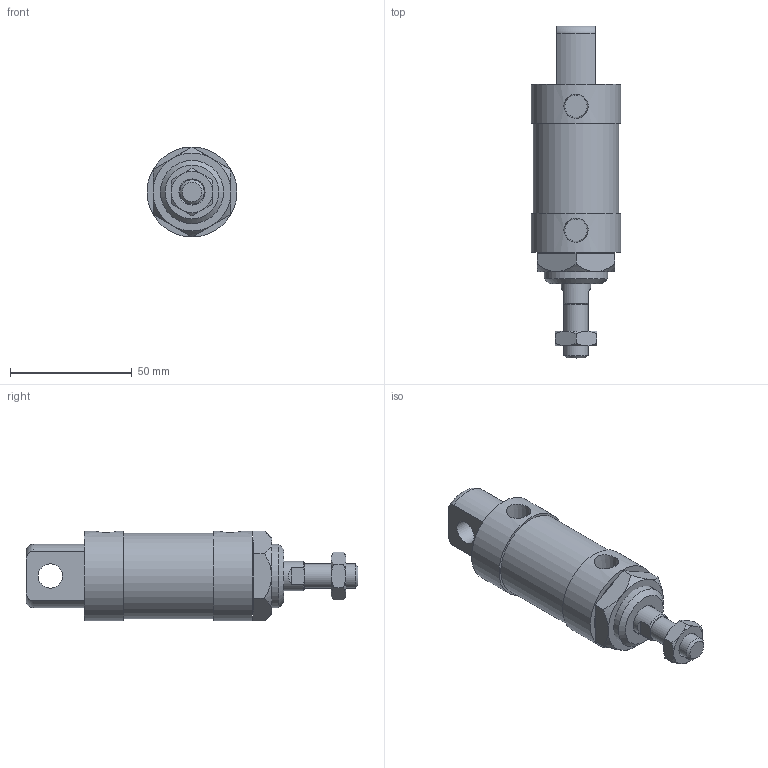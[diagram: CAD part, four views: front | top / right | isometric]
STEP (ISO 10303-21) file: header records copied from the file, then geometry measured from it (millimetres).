
FILE_DESCRIPTION(/* description */ ('Unknown'),/* implementation_level */ '2;1');
FILE_NAME(/* name */ 'WK30-SD',/* time_stamp */ '2026-07-17T16:32:55+08:00',/* author */ ('Unknown'),/* organization */ ('Unknown'),/* preprocessor_version */ 'ST-DEVELOPER v16.7',/* originating_system */ 'DEX',/* authorisation */ $);
FILE_SCHEMA (('CONFIG_CONTROL_DESIGN'));
Length unit declared in the file: millimetre
Products named in the file (7): WK30-SD; WK30_前; WK30_鋁; WK30_心軸活; WK30_SD; M10-1.25P-6_螺; M26-1.5P-8_螺
Assembly tree (6 placements, depth 2):
  WK30-SD
    WK30_前
    WK30_鋁
    WK30_心軸活
    WK30_SD
    M10-1.25P-6_螺
    M26-1.5P-8_螺
Bounding box: 37 x 136.5 x 37 mm (x, y, z)
Volume: 91626.3 mm3; surface area: 31287.4 mm2
Topology: 6 solids, 6 shells, 95 faces, 207 edges, 130 vertices
Faces by surface type: plane 45, cone 31, cylinder 17, torus 2
Full cylindrical faces by diameter (mm): 8.75 x1, 10 x2, 12 x2, 24.5 x1, 26 x1, 29.5 x1, 30 x1, 32 x3, 35 x1, 37 x2
Entity records: 3218 total; most frequent: CARTESIAN_POINT 582, DIRECTION 398, ORIENTED_EDGE 328, AXIS2_PLACEMENT_3D 178, EDGE_CURVE 164, EDGE_LOOP 138, FACE_BOUND 138, VERTEX_POINT 114
